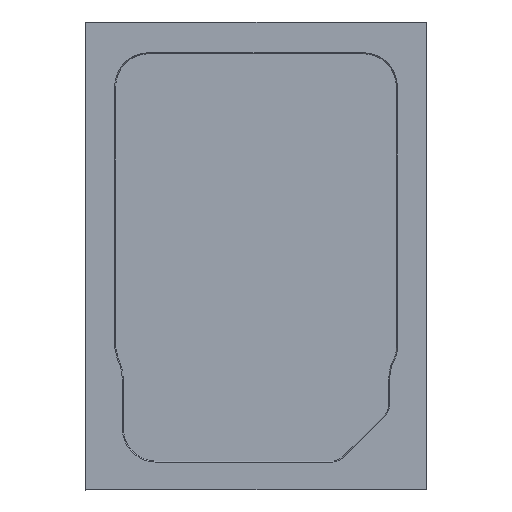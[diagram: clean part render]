
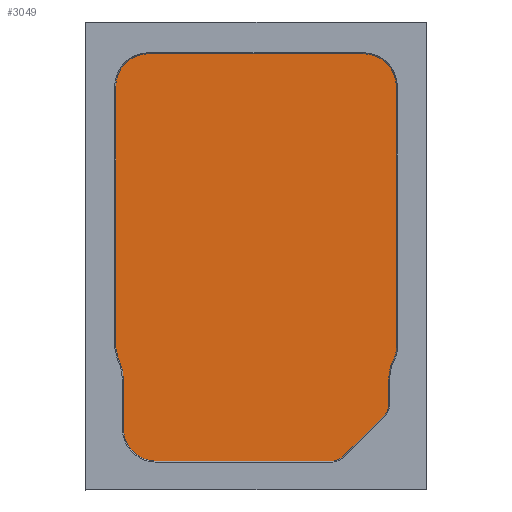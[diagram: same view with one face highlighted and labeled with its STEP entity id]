
A CAD part, top view. The second image highlights one B-rep face of the part: STEP entity #3049.
In plain terms, the highlighted planar face has unit normal (0, 0, 1).
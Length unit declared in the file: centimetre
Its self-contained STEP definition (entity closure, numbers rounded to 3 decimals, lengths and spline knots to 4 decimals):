
#5 = ORIENTED_EDGE ( 'NONE', *, *, #2347, .T. ) ;
#9 = DIRECTION ( 'NONE',  ( 0.707, 0.707, 0. ) ) ;
#23 = DIRECTION ( 'NONE',  ( 1., 0., 0. ) ) ;
#43 = AXIS2_PLACEMENT_3D ( 'NONE', #2375, #707, #753 ) ;
#48 = CARTESIAN_POINT ( 'NONE',  ( 0.0825, 0.0994, -0.001 ) ) ;
#54 = VERTEX_POINT ( 'NONE', #696 ) ;
#62 = ORIENTED_EDGE ( 'NONE', *, *, #2721, .T. ) ;
#63 = EDGE_CURVE ( 'NONE', #1534, #1205, #2210, .T. ) ;
#162 = EDGE_CURVE ( 'NONE', #2478, #54, #513, .T. ) ;
#173 = CARTESIAN_POINT ( 'NONE',  ( -0.0825, 0.0994, -0.001 ) ) ;
#182 = AXIS2_PLACEMENT_3D ( 'NONE', #3126, #2036, #1184 ) ;
#196 = DIRECTION ( 'NONE',  ( 1., 0., 0. ) ) ;
#241 = LINE ( 'NONE', #2911, #1248 ) ;
#294 = DIRECTION ( 'NONE',  ( 1., 0., 0. ) ) ;
#302 = VECTOR ( 'NONE', #9, 100. ) ;
#319 = CARTESIAN_POINT ( 'NONE',  ( 0.0631, 0.0994, -0.001 ) ) ;
#332 = VERTEX_POINT ( 'NONE', #852 ) ;
#369 = CARTESIAN_POINT ( 'NONE',  ( 0.0445, -0.1207, -0.001 ) ) ;
#383 = CARTESIAN_POINT ( 'NONE',  ( 0.0809, -0.0606, -0.001 ) ) ;
#451 = AXIS2_PLACEMENT_3D ( 'NONE', #2504, #1957, #23 ) ;
#499 = CARTESIAN_POINT ( 'NONE',  ( -0.0631, 0.0994, -0.001 ) ) ;
#507 = VECTOR ( 'NONE', #671, 100. ) ;
#513 = CIRCLE ( 'NONE', #43, 0.0144 ) ;
#548 = LINE ( 'NONE', #819, #1876 ) ;
#597 = AXIS2_PLACEMENT_3D ( 'NONE', #2881, #3397, #2849 ) ;
#607 = CARTESIAN_POINT ( 'NONE',  ( -0.0825, -0.0539, -0.001 ) ) ;
#668 = CARTESIAN_POINT ( 'NONE',  ( -0.078, -0.1012, -0.001 ) ) ;
#671 = DIRECTION ( 'NONE',  ( 1., 0., 0. ) ) ;
#678 = ORIENTED_EDGE ( 'NONE', *, *, #162, .T. ) ;
#696 = CARTESIAN_POINT ( 'NONE',  ( 0.0825, -0.054, -0.001 ) ) ;
#707 = DIRECTION ( 'NONE',  ( 0., 0., 1. ) ) ;
#718 = EDGE_CURVE ( 'NONE', #3055, #1232, #2443, .T. ) ;
#744 = EDGE_CURVE ( 'NONE', #1067, #1021, #241, .T. ) ;
#753 = DIRECTION ( 'NONE',  ( 1., 0., 0. ) ) ;
#757 = DIRECTION ( 'NONE',  ( -1., 0., 0. ) ) ;
#819 = CARTESIAN_POINT ( 'NONE',  ( -0.081, -0.0605, -0.001 ) ) ;
#852 = CARTESIAN_POINT ( 'NONE',  ( -0.078, -0.0724, -0.001 ) ) ;
#856 = VECTOR ( 'NONE', #2532, 100. ) ;
#889 = CARTESIAN_POINT ( 'NONE',  ( 0.0825, 0.0994, -0.001 ) ) ;
#964 = ORIENTED_EDGE ( 'NONE', *, *, #2852, .T. ) ;
#973 = DIRECTION ( 'NONE',  ( 1., 0., 0. ) ) ;
#992 = LINE ( 'NONE', #3113, #507 ) ;
#1002 = DIRECTION ( 'NONE',  ( 1., 0., 0. ) ) ;
#1021 = VERTEX_POINT ( 'NONE', #1946 ) ;
#1039 = LINE ( 'NONE', #2989, #302 ) ;
#1067 = VERTEX_POINT ( 'NONE', #2722 ) ;
#1078 = CARTESIAN_POINT ( 'NONE',  ( -0.0586, -0.1207, -0.001 ) ) ;
#1103 = CIRCLE ( 'NONE', #1661, 0.0194 ) ;
#1111 = LINE ( 'NONE', #668, #1617 ) ;
#1131 = DIRECTION ( 'NONE',  ( 1., 0., 0. ) ) ;
#1184 = DIRECTION ( 'NONE',  ( 1., 0., 0. ) ) ;
#1205 = VERTEX_POINT ( 'NONE', #2846 ) ;
#1232 = VERTEX_POINT ( 'NONE', #1813 ) ;
#1240 = EDGE_CURVE ( 'NONE', #2409, #3055, #992, .T. ) ;
#1248 = VECTOR ( 'NONE', #757, 100. ) ;
#1348 = AXIS2_PLACEMENT_3D ( 'NONE', #319, #3002, #973 ) ;
#1349 = CIRCLE ( 'NONE', #451, 0.0256 ) ;
#1385 = VECTOR ( 'NONE', #1870, 100. ) ;
#1457 = ORIENTED_EDGE ( 'NONE', *, *, #1240, .T. ) ;
#1489 = VERTEX_POINT ( 'NONE', #1961 ) ;
#1534 = VERTEX_POINT ( 'NONE', #2258 ) ;
#1590 = CARTESIAN_POINT ( 'NONE',  ( -0.0586, -0.1012, -0.001 ) ) ;
#1617 = VECTOR ( 'NONE', #2596, 100. ) ;
#1644 = ORIENTED_EDGE ( 'NONE', *, *, #3341, .T. ) ;
#1656 = EDGE_LOOP ( 'NONE', ( #3505, #3513, #2262, #2520, #1942, #678, #2894, #2515, #2077, #1644, #964, #5, #2672, #3462, #62, #1457 ) ) ;
#1661 = AXIS2_PLACEMENT_3D ( 'NONE', #499, #1879, #294 ) ;
#1670 = DIRECTION ( 'NONE',  ( 0.228, -0.974, 0. ) ) ;
#1757 = EDGE_CURVE ( 'NONE', #54, #3405, #1952, .T. ) ;
#1784 = CIRCLE ( 'NONE', #1922, 0.0194 ) ;
#1813 = CARTESIAN_POINT ( 'NONE',  ( 0.0511, -0.1179, -0.001 ) ) ;
#1856 = CIRCLE ( 'NONE', #2906, 0.0256 ) ;
#1870 = DIRECTION ( 'NONE',  ( 0., -1., 0. ) ) ;
#1876 = VECTOR ( 'NONE', #1670, 100. ) ;
#1879 = DIRECTION ( 'NONE',  ( 0., 0., 1. ) ) ;
#1922 = AXIS2_PLACEMENT_3D ( 'NONE', #1590, #2635, #1002 ) ;
#1942 = ORIENTED_EDGE ( 'NONE', *, *, #2272, .T. ) ;
#1946 = CARTESIAN_POINT ( 'NONE',  ( -0.0631, 0.1189, -0.001 ) ) ;
#1952 = LINE ( 'NONE', #48, #856 ) ;
#1953 = DIRECTION ( 'NONE',  ( 0., 1., 0. ) ) ;
#1954 = EDGE_CURVE ( 'NONE', #1205, #1489, #2526, .T. ) ;
#1957 = DIRECTION ( 'NONE',  ( 0., 0., -1. ) ) ;
#1961 = CARTESIAN_POINT ( 'NONE',  ( 0.078, -0.0724, -0.001 ) ) ;
#2032 = EDGE_CURVE ( 'NONE', #3328, #332, #1856, .T. ) ;
#2036 = DIRECTION ( 'NONE',  ( 0., 0., -1. ) ) ;
#2040 = VERTEX_POINT ( 'NONE', #607 ) ;
#2077 = ORIENTED_EDGE ( 'NONE', *, *, #744, .T. ) ;
#2088 = CARTESIAN_POINT ( 'NONE',  ( 0.0445, -0.1112, -0.001 ) ) ;
#2192 = CARTESIAN_POINT ( 'NONE',  ( -0.078, -0.1012, -0.001 ) ) ;
#2210 = CIRCLE ( 'NONE', #597, 0.0094 ) ;
#2231 = VERTEX_POINT ( 'NONE', #173 ) ;
#2258 = CARTESIAN_POINT ( 'NONE',  ( 0.0753, -0.0938, -0.001 ) ) ;
#2262 = ORIENTED_EDGE ( 'NONE', *, *, #63, .T. ) ;
#2272 = EDGE_CURVE ( 'NONE', #1489, #2478, #1349, .T. ) ;
#2287 = LINE ( 'NONE', #2700, #1385 ) ;
#2347 = EDGE_CURVE ( 'NONE', #2040, #3328, #548, .T. ) ;
#2368 = VERTEX_POINT ( 'NONE', #2192 ) ;
#2375 = CARTESIAN_POINT ( 'NONE',  ( 0.0681, -0.054, -0.001 ) ) ;
#2399 = EDGE_CURVE ( 'NONE', #1232, #1534, #1039, .T. ) ;
#2409 = VERTEX_POINT ( 'NONE', #1078 ) ;
#2443 = CIRCLE ( 'NONE', #3413, 0.0094 ) ;
#2478 = VERTEX_POINT ( 'NONE', #383 ) ;
#2504 = CARTESIAN_POINT ( 'NONE',  ( 0.1036, -0.0724, -0.001 ) ) ;
#2515 = ORIENTED_EDGE ( 'NONE', *, *, #3562, .T. ) ;
#2520 = ORIENTED_EDGE ( 'NONE', *, *, #1954, .T. ) ;
#2526 = LINE ( 'NONE', #2993, #2970 ) ;
#2532 = DIRECTION ( 'NONE',  ( 0., 1., 0. ) ) ;
#2549 = DIRECTION ( 'NONE',  ( 0., 0., -1. ) ) ;
#2596 = DIRECTION ( 'NONE',  ( 0., -1., 0. ) ) ;
#2635 = DIRECTION ( 'NONE',  ( 0., 0., 1. ) ) ;
#2658 = CIRCLE ( 'NONE', #1348, 0.0194 ) ;
#2672 = ORIENTED_EDGE ( 'NONE', *, *, #2032, .T. ) ;
#2700 = CARTESIAN_POINT ( 'NONE',  ( -0.0825, -0.054, -0.001 ) ) ;
#2721 = EDGE_CURVE ( 'NONE', #2368, #2409, #1784, .T. ) ;
#2722 = CARTESIAN_POINT ( 'NONE',  ( 0.0631, 0.1189, -0.001 ) ) ;
#2779 = CARTESIAN_POINT ( 'NONE',  ( -0.1036, -0.0724, -0.001 ) ) ;
#2846 = CARTESIAN_POINT ( 'NONE',  ( 0.078, -0.0871, -0.001 ) ) ;
#2849 = DIRECTION ( 'NONE',  ( 1., 0., 0. ) ) ;
#2852 = EDGE_CURVE ( 'NONE', #2231, #2040, #2287, .T. ) ;
#2881 = CARTESIAN_POINT ( 'NONE',  ( 0.0686, -0.0871, -0.001 ) ) ;
#2894 = ORIENTED_EDGE ( 'NONE', *, *, #1757, .T. ) ;
#2906 = AXIS2_PLACEMENT_3D ( 'NONE', #2779, #2549, #1131 ) ;
#2911 = CARTESIAN_POINT ( 'NONE',  ( -0.0631, 0.1189, -0.001 ) ) ;
#2970 = VECTOR ( 'NONE', #1953, 100. ) ;
#2989 = CARTESIAN_POINT ( 'NONE',  ( 0.0753, -0.0938, -0.001 ) ) ;
#2993 = CARTESIAN_POINT ( 'NONE',  ( 0.078, -0.0724, -0.001 ) ) ;
#3002 = DIRECTION ( 'NONE',  ( 0., 0., 1. ) ) ;
#3049 = ADVANCED_FACE ( 'NONE', ( #3080 ), #3354, .F. ) ;
#3050 = EDGE_CURVE ( 'NONE', #332, #2368, #1111, .T. ) ;
#3055 = VERTEX_POINT ( 'NONE', #369 ) ;
#3080 = FACE_OUTER_BOUND ( 'NONE', #1656, .T. ) ;
#3113 = CARTESIAN_POINT ( 'NONE',  ( 0.0445, -0.1207, -0.001 ) ) ;
#3126 = CARTESIAN_POINT ( 'NONE',  ( 0.0445, -0.1112, -0.001 ) ) ;
#3245 = CARTESIAN_POINT ( 'NONE',  ( -0.081, -0.0604, -0.001 ) ) ;
#3328 = VERTEX_POINT ( 'NONE', #3245 ) ;
#3341 = EDGE_CURVE ( 'NONE', #1021, #2231, #1103, .T. ) ;
#3354 = PLANE ( 'NONE',  #182 ) ;
#3397 = DIRECTION ( 'NONE',  ( 0., 0., 1. ) ) ;
#3405 = VERTEX_POINT ( 'NONE', #889 ) ;
#3413 = AXIS2_PLACEMENT_3D ( 'NONE', #2088, #3481, #196 ) ;
#3462 = ORIENTED_EDGE ( 'NONE', *, *, #3050, .T. ) ;
#3481 = DIRECTION ( 'NONE',  ( 0., 0., 1. ) ) ;
#3505 = ORIENTED_EDGE ( 'NONE', *, *, #718, .T. ) ;
#3513 = ORIENTED_EDGE ( 'NONE', *, *, #2399, .T. ) ;
#3562 = EDGE_CURVE ( 'NONE', #3405, #1067, #2658, .T. ) ;
